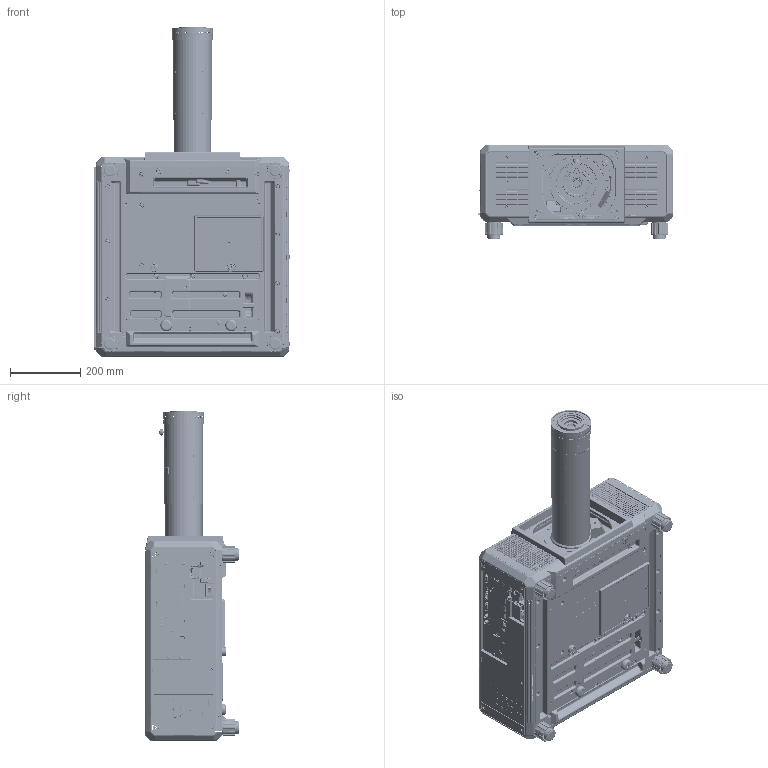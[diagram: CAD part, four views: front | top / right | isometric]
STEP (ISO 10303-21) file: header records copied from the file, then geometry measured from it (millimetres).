
FILE_DESCRIPTION(/* description */ (''),/* implementation_level */ '2;1');
FILE_NAME(/* name */ '01103239_ZA00_RQ25K_D3LEF70_FACE.stp',/* time_stamp */ '2022-12-05T13:56:28+09:00',/* author */ (''),/* organization */ (''),/* preprocessor_version */ 'ST-DEVELOPER v16',/* originating_system */ 'SIEMENS PLM Software NX 10.0',/* authorisation */ '');
FILE_SCHEMA (('AUTOMOTIVE_DESIGN { 1 0 10303 214 3 1 1 1 }'));
Products named in the file (1): 01103239_ZA00
Bounding box: 556.3 x 269 x 940.95 mm (x, y, z)
Surface area: 1977722.2 mm2 (no closed solid volume)
Topology: 0 solids, 2265 shells, 9876 faces, 46265 edges, 38128 vertices
Faces by surface type: plane 4920, cylinder 3850, torus 417, bspline 379, cone 197, sphere 112, extrusion 1
Full cylindrical faces by diameter (mm): 1.02 x3, 1.975 x2, 3.3 x1, 3.6 x1, 3.7 x2, 4.5 x1, 5 x2, 5.5 x1, 6 x7, 8 x4, 9.5 x2, 14.9 x1, 15 x1, 16 x1, 19.5 x1, 25.7 x1, 26.5 x1, 31.2 x1, 37.2 x4, 37.5 x1, 40 x4, 56 x1, 64 x1, 64.2 x1, 65 x1, 74 x1, 76.7 x1, 77.5 x1, 77.7 x1, 107 x1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
Entity records: 565212 total; most frequent: CARTESIAN_POINT 137417, DIRECTION 74740, ORIENTED_EDGE 55490, EDGE_CURVE 45735, VERTEX_POINT 37976, VECTOR 25476, LINE 25475, AXIS2_PLACEMENT_3D 24632
